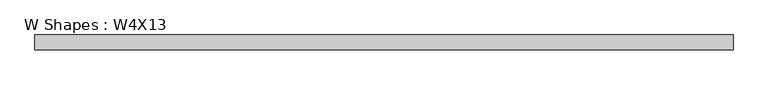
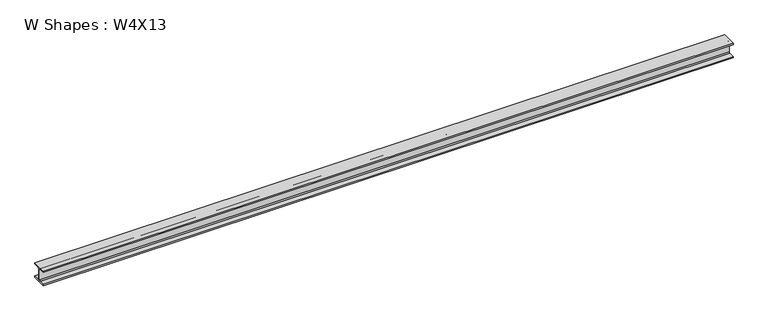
"""IFC4 building model written with IfcOpenShell, lengths in millimetres: beam geometry, W Shapes : W4X13."""

from ifc_helpers import new_model, si_unit, point, frame, frame_2d, origin, place, context, project, spatial, polyline, circle_curve, trimmed, segment, composite_curve, outline, extrude, source, transform, mapped, element, save


def w_shapes_w4x13_afdda7a2(model_context):
    return source(origin(), model_context, "Body", "SweptSolid", [
        extrude(outline(composite_curve([segment(polyline([(51.562, -44.069), (51.562, -52.832), (-51.562, -52.832), (-51.562, -44.069), (-9.906, -44.069)]), True, "CONTINUOUS"), segment(trimmed(circle_curve(frame_2d((-9.906, -37.719)), 6.35), [point((-9.906, -44.069))], [point((-3.556, -37.719))], True, "CARTESIAN"), True, "CONTINUOUS"), segment(polyline([(-3.556, -37.719), (-3.556, 37.719)]), True, "CONTINUOUS"), segment(trimmed(circle_curve(frame_2d((-9.906, 37.719)), 6.35), [point((-3.556, 37.719))], [point((-9.906, 44.069))], True, "CARTESIAN"), True, "CONTINUOUS"), segment(polyline([(-9.906, 44.069), (-51.562, 44.069), (-51.562, 52.832), (51.562, 52.832), (51.562, 44.069), (9.906, 44.069)]), True, "CONTINUOUS"), segment(trimmed(circle_curve(frame_2d((9.906, 37.719)), 6.35), [point((9.906, 44.069))], [point((3.556, 37.719))], True, "CARTESIAN"), True, "CONTINUOUS"), segment(polyline([(3.556, 37.719), (3.556, -37.719)]), True, "CONTINUOUS"), segment(trimmed(circle_curve(frame_2d((9.906, -37.719)), 6.35), [point((3.556, -37.719))], [point((9.906, -44.069))], True, "CARTESIAN"), True, "CONTINUOUS"), segment(polyline([(9.906, -44.069), (51.562, -44.069)]), True, "CONTINUOUS")], self_intersect=False)), frame((-2398.273, 0.0, 0.0), z_axis=(1.0, 0.0, 0.0), x_axis=(0.0, 1.0, 0.0)), (0.0, 0.0, 1.0), 4796.546),
    ])


if __name__ == "__main__":
    model = new_model("IFC4")
    model_context = context("Model", 3, world=origin())
    ifc_project = project(units=[si_unit("LENGTHUNIT", "METRE", prefix="MILLI")], contexts=[model_context])
    site = spatial("IfcSite", under=ifc_project)
    building = spatial("IfcBuilding", under=site)
    placement = place(None, origin())
    w_shapes_w4x13_shape = w_shapes_w4x13_afdda7a2(model_context)
    element("IfcBeam", 1, ObjectType="W Shapes : W4X13", at=placement, inside=building, context=model_context, shape_type="MappedRepresentation", body=[
        mapped(w_shapes_w4x13_shape, transform((0.0, 0.0, 0.0), x_axis=(1.0, 0.0, 0.0), y_axis=(0.0, 1.0, 0.0), z_axis=(0.0, 0.0, 1.0))),
    ])
    save(model, "model.ifc")
